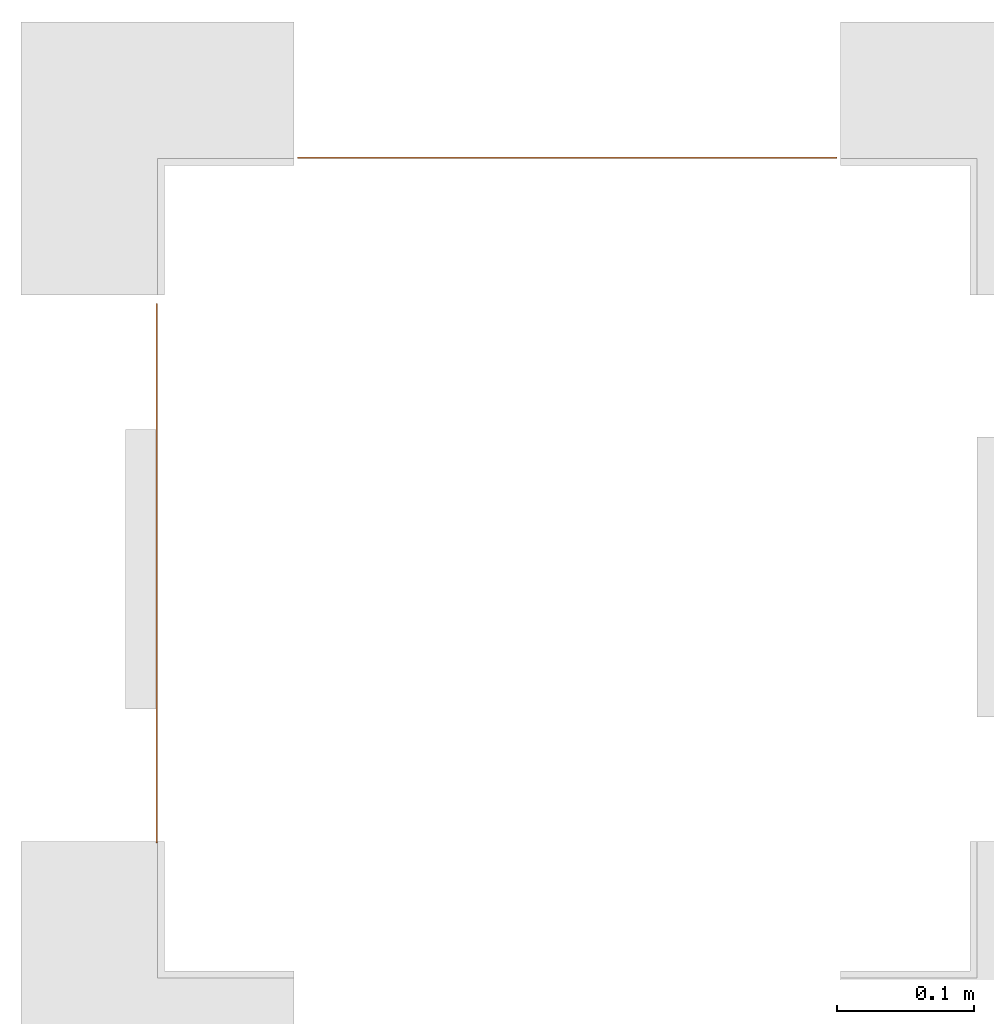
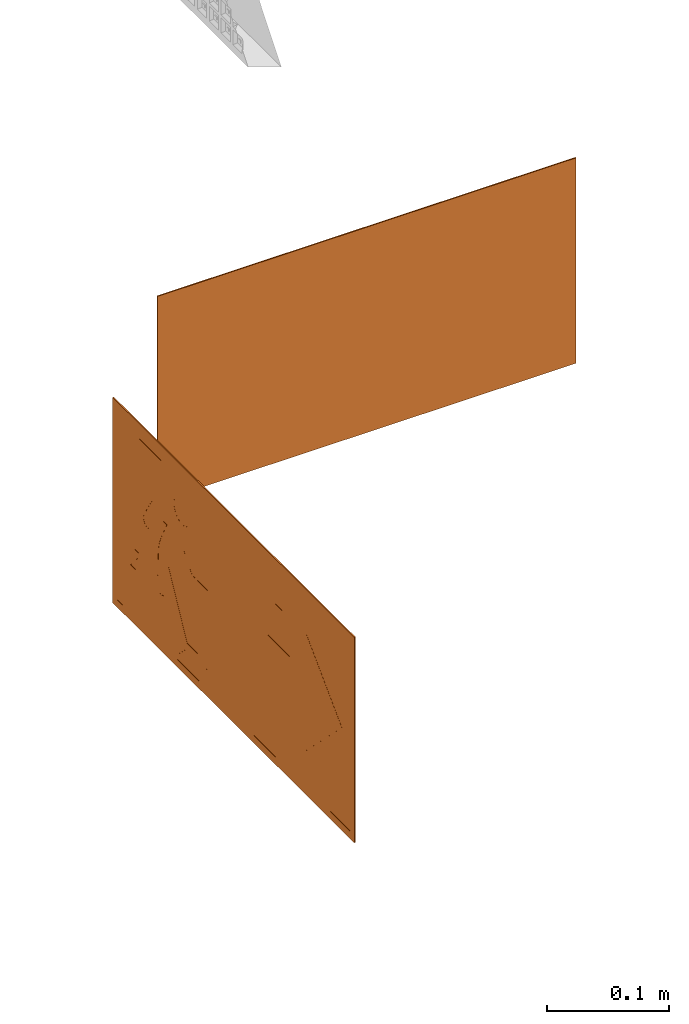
# One storey, part 101 of 119: 2 proxies.
"""IFC2X3 building model written with IfcOpenShell, lengths in metres."""

import ifcopenshell
import ifcopenshell.guid

model = None  # the IFC model being written
_history = None  # IfcOwnerHistory: only IFC2X3 demands one
_inside = {}  # id of a spatial element -> (the spatial element, [elements in it])
_under = {}  # id of a project, library or spatial element -> (it, [spatial elements below it])
_declared = {}  # id of a project -> (the project, [libraries it declares])
_typed = {}  # id of a type object -> (the type object, [elements of that type])
_made_of = {}  # id of a material, layer set ... -> (it, [elements and type objects made of it])


def new_model(schema):
    """Start an empty IFC model of exactly this schema.

    Asked for "IFC4X3", IfcOpenShell would pick the latest addendum, in which some entities
    have other attributes; the version numbers below select the first issue.
    IFC2X3 requires an IfcOwnerHistory on every rooted entity: one is made here for all.
    """
    global model, _history
    if schema == "IFC4X3":
        model = ifcopenshell.file(schema_version=(4, 3, 0, 0))
    else:
        model = ifcopenshell.file(schema=schema)
    _inside.clear()
    _under.clear()
    _declared.clear()
    _typed.clear()
    _made_of.clear()
    _history = None
    if model.schema == "IFC2X3":
        org = make("IfcOrganization", Name="unknown")
        user = make(
            "IfcPersonAndOrganization",
            ThePerson=make("IfcPerson", FamilyName="unknown"),
            TheOrganization=org,
        )
        app = make(
            "IfcApplication",
            ApplicationDeveloper=org,
            Version="unknown",
            ApplicationFullName="unknown",
            ApplicationIdentifier="unknown",
        )
        _history = make(
            "IfcOwnerHistory",
            OwningUser=user,
            OwningApplication=app,
            ChangeAction="ADDED",
            CreationDate=0,
        )
    return model


def make(cls, **values):
    """One entity of the class cls with the attributes given. An attribute that is None is left unset."""
    return model.create_entity(
        cls, **{name: value for name, value in values.items() if value is not None}
    )


def entity(cls, *values):
    """Any entity or typed value of the class cls, its attributes in the order of the schema. None: left unset."""
    e = model.create_entity(cls)
    for i, value in enumerate(values):
        if value is not None:
            e[i] = value
    return e


def rooted(cls, **values):
    """An entity with a GlobalId (a new one), such as an element, a storey or a relation."""
    return make(cls, GlobalId=ifcopenshell.guid.new(), OwnerHistory=_history, **values)


def si_unit(unit_type, name, prefix=None):
    """IfcSIUnit, for example si_unit("LENGTHUNIT", "METRE", prefix="MILLI")."""
    return make("IfcSIUnit", UnitType=unit_type, Prefix=prefix, Name=name)


def converted_unit(unit_type, name, factor, base, dimensions=None, offset=None):
    """IfcConversionBasedUnit, such as the inch: factor (a typed value) times the base unit."""
    return make(
        "IfcConversionBasedUnit"
        if offset is None
        else "IfcConversionBasedUnitWithOffset",
        ConversionOffset=offset,
        Dimensions=None
        if dimensions is None
        else entity("IfcDimensionalExponents", *dimensions),
        UnitType=unit_type,
        Name=name,
        ConversionFactor=make(
            "IfcMeasureWithUnit", ValueComponent=factor, UnitComponent=base
        ),
    )


def derived_unit(unit_type, elements):
    """IfcDerivedUnit: a product of units, each with its exponent."""
    return make(
        "IfcDerivedUnit",
        Elements=[
            make("IfcDerivedUnitElement", Unit=unit, Exponent=power)
            for unit, power in elements
        ],
        UnitType=unit_type,
    )


def assignment(units):
    """IfcUnitAssignment: the units of a project."""
    return None if units is None else make("IfcUnitAssignment", Units=units)


def point(xyz):
    """IfcCartesianPoint."""
    return None if xyz is None else make("IfcCartesianPoint", Coordinates=xyz)


def direction(xyz):
    """IfcDirection."""
    return None if xyz is None else make("IfcDirection", DirectionRatios=xyz)


def frame(location, z_axis=None, x_axis=None):
    """IfcAxis2Placement3D, a coordinate frame: its origin and axes. An axis left out is left unset."""
    return make(
        "IfcAxis2Placement3D",
        Location=point(location),
        Axis=direction(z_axis),
        RefDirection=direction(x_axis),
    )


def frame_2d(location, x_axis=None):
    """IfcAxis2Placement2D, a coordinate frame in the plane: its origin and x axis."""
    return make(
        "IfcAxis2Placement2D", Location=point(location), RefDirection=direction(x_axis)
    )


def origin():
    """The frame at (0, 0, 0) with its axes left unset."""
    return frame((0.0, 0.0, 0.0))


def origin_2d_with_axis():
    """The frame at (0, 0) in the plane with the x axis (1, 0) written out."""
    return frame_2d((0.0, 0.0), x_axis=(1.0, 0.0))


def place(relative_to, where):
    """IfcLocalPlacement: puts the frame where relative to a parent placement (None: the world)."""
    return make(
        "IfcLocalPlacement", PlacementRelTo=relative_to, RelativePlacement=where
    )


def context(
    kind, dimensions, precision=None, world=None, true_north=None, identifier=None
):
    """IfcGeometricRepresentationContext, for example the 3D "Model" context."""
    return make(
        "IfcGeometricRepresentationContext",
        ContextIdentifier=identifier,
        ContextType=kind,
        CoordinateSpaceDimension=dimensions,
        Precision=precision,
        WorldCoordinateSystem=world,
        TrueNorth=true_north,
    )


def subcontext(parent, identifier, kind, view, scale=None):
    """IfcGeometricRepresentationSubContext, for example "Body" below "Model"."""
    return make(
        "IfcGeometricRepresentationSubContext",
        ContextIdentifier=identifier,
        ContextType=kind,
        ParentContext=parent,
        TargetScale=scale,
        TargetView=view,
    )


def project(units=None, contexts=None):
    """IfcProject with its units and contexts."""
    return rooted(
        "IfcProject",
        Name="project",
        RepresentationContexts=contexts,
        UnitsInContext=assignment(units),
    )


def spatial(cls, under=None, at=None, **own):
    """A site, building, storey or space (cls), placed at a placement, below another one or the project."""
    s = rooted(cls, ObjectPlacement=at, **own)
    if under is not None:
        _under.setdefault(under.id(), (under, []))[1].append(s)
    return s


def polyline(points):
    """IfcPolyline through the points."""
    return make("IfcPolyline", Points=[point(p) for p in points])


def circle_curve(where, radius):
    """IfcCircle in the frame where."""
    return make("IfcCircle", Position=where, Radius=radius)


def parameter(value):
    """IfcParameterValue: where a trimmed curve begins or ends, as a parameter of its basis curve."""
    return model.create_entity("IfcParameterValue", value)


def trimmed(basis, trim1, trim2, sense, master):
    """IfcTrimmedCurve: the piece of a basis curve between two trims."""
    return make(
        "IfcTrimmedCurve",
        BasisCurve=basis,
        Trim1=trim1,
        Trim2=trim2,
        SenseAgreement=sense,
        MasterRepresentation=master,
    )


def segment(curve, same_sense, transition):
    """IfcCompositeCurveSegment."""
    return make(
        "IfcCompositeCurveSegment",
        Transition=transition,
        SameSense=same_sense,
        ParentCurve=curve,
    )


def composite_curve(segments, self_intersect=None):
    """IfcCompositeCurve: segments joined end to end."""
    return make("IfcCompositeCurve", Segments=segments, SelfIntersect=self_intersect)


def profile(cls, at=None, kind="AREA", **sizes):
    """A parametric profile (cls). Its sizes go by their IFC names, for example OverallWidth=200.0."""
    return make(cls, ProfileType=kind, Position=at, **sizes)


def rectangle(**sizes):
    """IfcRectangleProfileDef."""
    return profile("IfcRectangleProfileDef", **sizes)


def outline(outer, holes=None, kind="AREA"):
    """IfcArbitraryClosedProfileDef: a profile drawn as a closed curve; with holes, ...WithVoids."""
    if holes is None:
        return make("IfcArbitraryClosedProfileDef", ProfileType=kind, OuterCurve=outer)
    return make(
        "IfcArbitraryProfileDefWithVoids",
        ProfileType=kind,
        OuterCurve=outer,
        InnerCurves=holes,
    )


def extrude(swept, where, along, depth):
    """IfcExtrudedAreaSolid: the profile swept, set in the frame where, extruded along a direction by depth."""
    return make(
        "IfcExtrudedAreaSolid",
        SweptArea=swept,
        Position=where,
        ExtrudedDirection=direction(along),
        Depth=depth,
    )


def shape(context_of_items, identifier, shape_type, items):
    """IfcShapeRepresentation: the items that make up one representation, for example the "Body"."""
    return make(
        "IfcShapeRepresentation",
        ContextOfItems=context_of_items,
        RepresentationIdentifier=identifier,
        RepresentationType=shape_type,
        Items=items,
    )


def source(mapping_origin, context_of_items, identifier, shape_type, items):
    """IfcRepresentationMap: a shape defined once, which mapped items show again and again."""
    return make(
        "IfcRepresentationMap",
        MappingOrigin=mapping_origin,
        MappedRepresentation=shape(context_of_items, identifier, shape_type, items),
    )


def transform(
    local_origin,
    x_axis=None,
    y_axis=None,
    z_axis=None,
    scale=None,
    scale2=None,
    scale3=None,
    uniform=True,
):
    """IfcCartesianTransformationOperator3D, or its non-uniform kind. x_axis, y_axis, z_axis: its Axis1, 2, 3."""
    if uniform:
        return make(
            "IfcCartesianTransformationOperator3D",
            Axis1=direction(x_axis),
            Axis2=direction(y_axis),
            LocalOrigin=point(local_origin),
            Scale=scale,
            Axis3=direction(z_axis),
        )
    return make(
        "IfcCartesianTransformationOperator3DnonUniform",
        Axis1=direction(x_axis),
        Axis2=direction(y_axis),
        LocalOrigin=point(local_origin),
        Scale=scale,
        Axis3=direction(z_axis),
        Scale2=scale2,
        Scale3=scale3,
    )


def mapped(mapping_source, mapping_target):
    """IfcMappedItem: shows the shape of a source again, moved by a transform."""
    return make(
        "IfcMappedItem", MappingSource=mapping_source, MappingTarget=mapping_target
    )


def material(Name=None, Category=None):
    """IfcMaterial."""
    return make("IfcMaterial", Name=Name, Category=Category)


def material_list(materials):
    """IfcMaterialList."""
    return make("IfcMaterialList", Materials=materials)


def made_of(thing, what):
    """Note that an element or type object is made of a material, layer set ...; save() writes the relation."""
    if what is not None:
        _made_of.setdefault(what.id(), (what, []))[1].append(thing)
    return thing


def type_object(cls, material=None, **own):
    """A type object (cls), such as IfcWallType, which elements share."""
    return made_of(rooted(cls, **own), material)


def type_shapes(of_type, sources):
    """Give a type object the sources (RepresentationMaps) that its elements show as mapped items."""
    of_type.RepresentationMaps = sources


def element(
    cls,
    number,
    at=None,
    inside=None,
    cuts=None,
    type_object=None,
    material=None,
    context=None,
    identifier="Body",
    shape_type=None,
    held_by="IfcProductDefinitionShape",
    body=None,
    shapes=None,
    **own,
):
    """One element of the class cls, such as IfcWall. Its Tag is "e" and its number.

    at: its placement. inside: the storey or other place that contains it. cuts: it is an
    opening in that element (IfcRelVoidsElement). A single representation is given by context,
    identifier, shape_type and body (its items); several are given by shapes. held_by: the class
    of the entity that holds the representations. save() writes the other relations.
    """
    e = rooted(cls, Tag="e%d" % number, ObjectPlacement=at, **own)
    if body is not None:
        shapes = [shape(context, identifier, shape_type, body)]
    if shapes is not None:
        e.Representation = make(held_by, Representations=shapes)
    if inside is not None:
        _inside.setdefault(inside.id(), (inside, []))[1].append(e)
    if cuts is not None:
        rooted(
            "IfcRelVoidsElement", RelatingBuildingElement=cuts, RelatedOpeningElement=e
        )
    if type_object is not None:
        _typed.setdefault(type_object.id(), (type_object, []))[1].append(e)
    return made_of(e, material)


def aggregate(whole, parts):
    """IfcRelAggregates: a whole, such as a stair, and the parts it consists of."""
    return rooted("IfcRelAggregates", RelatingObject=whole, RelatedObjects=parts)


def save(model, path):
    """Write the relations noted so far, then the file.

    IfcRelAggregates (storeys below a building ...), IfcRelContainedInSpatialStructure (elements
    in a storey), IfcRelDefinesByType, IfcRelAssociatesMaterial and IfcRelDeclares: one each for
    every whole, place, type object, material and project.
    """
    for whole, parts in _under.values():
        aggregate(whole, parts)
    for where, things in _inside.values():
        rooted(
            "IfcRelContainedInSpatialStructure",
            RelatedElements=things,
            RelatingStructure=where,
        )
    for kind, things in _typed.values():
        rooted("IfcRelDefinesByType", RelatedObjects=things, RelatingType=kind)
    for what, things in _made_of.values():
        rooted("IfcRelAssociatesMaterial", RelatedObjects=things, RelatingMaterial=what)
    for by, libraries in _declared.values():
        rooted("IfcRelDeclares", RelatingContext=by, RelatedDefinitions=libraries)
    model.write(path)


model = new_model("IFC2X3")

# Units and contexts
model_context = context("Model", 3, precision=1e-05, world=origin(), true_north=direction((6.12303176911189e-17, 1.0)))
body_context = subcontext(model_context, "Body", "Model", "MODEL_VIEW")
ifc_project = project(units=[si_unit("LENGTHUNIT", "METRE"), si_unit("AREAUNIT", "SQUARE_METRE"), si_unit("VOLUMEUNIT", "CUBIC_METRE"), converted_unit("PLANEANGLEUNIT", "DEGREE", entity("IfcRatioMeasure", 0.0174532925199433), si_unit("PLANEANGLEUNIT", "RADIAN"), dimensions=[0, 0, 0, 0, 0, 0, 0]), si_unit("MASSUNIT", "GRAM", prefix="KILO"), derived_unit("MASSDENSITYUNIT", [(si_unit("MASSUNIT", "GRAM", prefix="KILO"), 1), (si_unit("LENGTHUNIT", "METRE"), -3)]), derived_unit("MOMENTOFINERTIAUNIT", [(si_unit("LENGTHUNIT", "METRE"), 4)]), si_unit("TIMEUNIT", "SECOND"), si_unit("FREQUENCYUNIT", "HERTZ"), si_unit("THERMODYNAMICTEMPERATUREUNIT", "DEGREE_CELSIUS"), derived_unit("THERMALTRANSMITTANCEUNIT", [(si_unit("MASSUNIT", "GRAM", prefix="KILO"), 1), (si_unit("THERMODYNAMICTEMPERATUREUNIT", "KELVIN"), -1), (si_unit("TIMEUNIT", "SECOND"), -3)]), derived_unit("VOLUMETRICFLOWRATEUNIT", [(si_unit("LENGTHUNIT", "METRE"), 3), (si_unit("TIMEUNIT", "SECOND"), -1)]), si_unit("ELECTRICCURRENTUNIT", "AMPERE"), si_unit("ELECTRICVOLTAGEUNIT", "VOLT"), si_unit("POWERUNIT", "WATT"), si_unit("FORCEUNIT", "NEWTON", prefix="KILO"), si_unit("ILLUMINANCEUNIT", "LUX"), si_unit("LUMINOUSFLUXUNIT", "LUMEN"), si_unit("LUMINOUSINTENSITYUNIT", "CANDELA"), derived_unit("USERDEFINED", [(si_unit("MASSUNIT", "GRAM", prefix="KILO"), -1), (si_unit("LENGTHUNIT", "METRE"), -2), (si_unit("TIMEUNIT", "SECOND"), 3), (si_unit("LUMINOUSFLUXUNIT", "LUMEN"), 1)]), derived_unit("LINEARVELOCITYUNIT", [(si_unit("LENGTHUNIT", "METRE"), 1), (si_unit("TIMEUNIT", "SECOND"), -1)]), si_unit("PRESSUREUNIT", "PASCAL"), derived_unit("USERDEFINED", [(si_unit("LENGTHUNIT", "METRE"), -2), (si_unit("MASSUNIT", "GRAM", prefix="KILO"), 1), (si_unit("TIMEUNIT", "SECOND"), -2)]), derived_unit("LINEARFORCEUNIT", [(si_unit("MASSUNIT", "GRAM", prefix="KILO"), 1), (si_unit("LENGTHUNIT", "METRE"), 1), (si_unit("TIMEUNIT", "SECOND"), -2), (si_unit("LENGTHUNIT", "METRE"), -1)]), derived_unit("PLANARFORCEUNIT", [(si_unit("MASSUNIT", "GRAM", prefix="KILO"), 1), (si_unit("LENGTHUNIT", "METRE"), 1), (si_unit("TIMEUNIT", "SECOND"), -2), (si_unit("LENGTHUNIT", "METRE"), -2)])], contexts=[model_context])

# Site, building, storey
site_placement = place(None, origin())
site = spatial("IfcSite", under=ifc_project, at=site_placement, Name="Default", CompositionType="ELEMENT")
building_placement = place(site_placement, origin())
building = spatial("IfcBuilding", under=site, at=building_placement, CompositionType="ELEMENT")
storey_placement = place(building_placement, origin())
storey = spatial("IfcBuildingStorey", under=building, at=storey_placement, Name="PAV. 01 - TÉRREO", CompositionType="ELEMENT", Elevation=0.0)

# Proxies
ifc_material_1 = material(Name="Plastico branco")
ifc_material_2 = material(Name="Plastico Verde")
ifc_material_list_1 = material_list([ifc_material_1, ifc_material_2])
building_element_proxy_type_1 = type_object("IfcBuildingElementProxyType", Name="Sinalização de orientação - S01 - Indicação do sentido da saída de emergência direita:Distância 12m", PredefinedType="NOTDEFINED", material=ifc_material_1)
shared_shape_1 = source(origin(), body_context, "Body", "SweptSolid", [
    extrude(outline(polyline([(0.0124622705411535, 0.0340163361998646), (0.0116069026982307, 0.0335634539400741), (0.0110082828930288, 0.0323153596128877), (0.0106205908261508, 0.0304379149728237), (0.0103980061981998, 0.0280969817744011), (0.0102947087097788, 0.0254584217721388), (0.0102359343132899, 0.0148408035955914), (0.0100952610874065, 0.0101688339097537), (0.00995272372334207, 0.00797089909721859), (0.00974625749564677, 0.00585117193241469), (0.00946401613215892, 0.00379928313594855), (0.00909414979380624, 0.0018048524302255), (0.00861827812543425, -0.000162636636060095), (0.00799797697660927, -0.00219550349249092), (0.00719098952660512, -0.00439788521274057), (0.00615505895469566, -0.0068739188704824), (0.00484792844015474, -0.00972774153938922), (0.00322734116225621, -0.0130634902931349), (-0.00393772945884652, -0.0270036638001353), (0.00911414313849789, -0.0269659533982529), (0.00975353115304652, -0.0269418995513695), (0.0101589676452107, -0.0269097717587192), (0.0104072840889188, -0.0268684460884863), (0.0105753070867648, -0.026816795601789), (0.0107283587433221, -0.0267465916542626), (0.0108956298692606, -0.0266273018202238), (0.0110992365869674, -0.0264240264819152), (0.0113612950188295, -0.02610186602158), (0.0117039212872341, -0.02562592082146), (0.0121492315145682, -0.0249612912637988), (0.0134363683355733, -0.022926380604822), (0.0220622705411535, -0.00866366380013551), (0.0231418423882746, -0.00739752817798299), (0.024244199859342, -0.00641124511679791), (0.0253551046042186, -0.00568750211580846), (0.026460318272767, -0.0052089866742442), (0.0275456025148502, -0.00495838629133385), (0.0285967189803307, -0.00491838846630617), (0.0295994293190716, -0.00507168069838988), (0.0305394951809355, -0.00540095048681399), (0.0314026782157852, -0.00588888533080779), (0.0321747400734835, -0.00651817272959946), (0.0328414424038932, -0.0072715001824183), (0.033388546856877, -0.00813155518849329), (0.0338018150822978, -0.00908102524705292), (0.0340670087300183, -0.0101025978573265), (0.0341698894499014, -0.0111789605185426), (0.0340962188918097, -0.0122928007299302), (0.0338317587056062, -0.0134268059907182), (0.0333622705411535, -0.0145636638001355), (0.027258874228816, -0.0250738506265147), (0.0231922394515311, -0.0317577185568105), (0.020455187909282, -0.0355759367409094), (0.0183405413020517, -0.0374891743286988), (0.0161486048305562, -0.0384492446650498), (0.0134863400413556, -0.0390450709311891), (0.0103684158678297, -0.0393831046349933), (0.00683771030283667, -0.0395364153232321), (-0.0223273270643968, -0.0395794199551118), (-0.0254276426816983, -0.0395207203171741), (-0.0281392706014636, -0.0392326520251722), (-0.0306250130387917, -0.0385308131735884), (-0.0330476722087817, -0.0372308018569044), (-0.0355700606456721, -0.0351482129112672), (-0.0383972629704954, -0.0320852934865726), (-0.0418729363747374, -0.0278005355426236), (-0.0522577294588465, -0.0145636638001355), (-0.0701177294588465, -0.0145636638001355), (-0.0701177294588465, -0.0855036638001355), (0.0426422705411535, -0.0855036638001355), (0.0426422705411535, 0.0290963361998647), (0.0481022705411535, 0.0290963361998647), (0.0680622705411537, 0.0537563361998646), (0.0426422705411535, 0.0537563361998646), (0.0426422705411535, 0.0764363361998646), (0.0551222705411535, 0.0891363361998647), (-0.0240977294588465, 0.0891363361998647), (-0.0371577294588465, 0.0764363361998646), (-0.0542977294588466, 0.0764363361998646), (-0.039344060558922, 0.0891363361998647), (-0.0579777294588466, 0.0891363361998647), (-0.0701177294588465, 0.0764363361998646), (-0.0701177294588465, -0.00182366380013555), (-0.0500921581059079, -0.00182052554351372), (-0.048376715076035, -0.00187323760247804), (-0.0469973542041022, -0.00203451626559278), (-0.0458400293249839, -0.00235707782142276), (-0.0447906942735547, -0.00289363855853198), (-0.0437353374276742, -0.0036968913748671), (-0.0425823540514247, -0.00480435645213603), (-0.0413011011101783, -0.00621227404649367), (-0.0398712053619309, -0.00790993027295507), (-0.0322577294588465, -0.0173836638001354), (-0.0217377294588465, 0.00417633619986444), (-0.0542977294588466, 0.0709363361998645), (-0.0371577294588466, 0.0709363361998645), (-0.00639772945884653, 0.0127763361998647), (-0.00393772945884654, 0.0340163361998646), (-0.00373167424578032, 0.0366224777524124), (-0.00346846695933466, 0.0389264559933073), (-0.00310194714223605, 0.0409426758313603), (-0.00258595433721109, 0.0426855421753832), (-0.00187432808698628, 0.0441694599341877), (-0.000920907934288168, 0.0454088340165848), (0.000320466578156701, 0.0464180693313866), (0.00189595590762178, 0.0472115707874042), (0.00385172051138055, 0.0478037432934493), (0.00623392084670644, 0.0482089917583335), (0.00908871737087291, 0.0484417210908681), (0.0124622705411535, 0.0485163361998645), (0.0551222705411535, 0.0485163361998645), (0.0426422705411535, 0.0340163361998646), (0.0124622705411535, 0.0340163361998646)]), holes=[composite_curve([segment(trimmed(circle_curve(frame_2d((-0.0288977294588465, -0.0559436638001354), x_axis=(-1.0, 0.0)), 0.0134), [parameter(180.0)], [parameter(360.0)], True, "PARAMETER"), False, "CONTINUOUS"), segment(trimmed(circle_curve(frame_2d((-0.0288977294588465, -0.0559436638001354), x_axis=(-1.0, 0.0)), 0.0134), [parameter(2.03555499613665e-13)], [parameter(180.0)], True, "PARAMETER"), False, "CONTINUOUS")], self_intersect=False)]), frame((-0.112957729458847, -0.00110000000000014, 1.90431633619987), z_axis=(0.0, -1.0, 0.0), x_axis=(-1.0, 0.0, 0.0)), (0.0, 0.0, -1.0), 0.0011),
    extrude(outline(polyline([(-0.102500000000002, -0.197500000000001), (0.102500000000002, -0.197500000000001), (0.102500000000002, 0.197500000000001), (-0.102500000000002, 0.197500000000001), (-0.102500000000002, -0.197500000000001)]), holes=[polyline([(-0.0950000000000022, -0.190000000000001), (-0.0950000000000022, 0.189999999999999), (0.0949999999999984, 0.189999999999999), (0.0949999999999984, -0.190000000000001), (-0.0950000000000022, -0.190000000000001)])]), frame((0.0, -0.0011, 1.9025), z_axis=(0.0, 1.0, 0.0), x_axis=(0.0, 0.0, -1.0)), (0.0, 0.0, 1.0), 0.0011),
    extrude(rectangle(XDim=0.001, YDim=0.38, at=origin_2d_with_axis()), frame((0.0, -0.0005, 1.8075), z_axis=(0.0, 0.0, 1.0), x_axis=(0.0, 1.0, 0.0)), (0.0, 0.0, 1.0), 0.190000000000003),
    extrude(outline(polyline([(-0.0165808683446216, -0.0648778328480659), (0.0648778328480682, -0.0648778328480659), (0.0648778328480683, 0.016580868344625), (0.0289709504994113, 0.0524877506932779), (0.0289709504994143, -0.00190290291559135), (-0.0467319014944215, 0.073799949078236), (-0.0737999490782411, 0.0467319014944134), (0.00190290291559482, -0.0289709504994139), (-0.0524877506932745, -0.028970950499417), (-0.0165808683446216, -0.0648778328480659)])), frame((0.0852288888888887, -0.0011, 1.9025), z_axis=(0.0, 1.0, 0.0), x_axis=(0.707106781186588, 0.0, -0.707106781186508)), (0.0, 0.0, 1.0), 0.0011),
])
type_shapes(building_element_proxy_type_1, [shared_shape_1])
proxy_1_placement = place(storey_placement, frame((80.8737817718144, 22.9250290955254, 0.0), z_axis=(0.0, 0.0, 1.0), x_axis=(0.0, -1.0, 0.0)))
element("IfcBuildingElementProxy", 1, at=proxy_1_placement, inside=storey, type_object=building_element_proxy_type_1, material=ifc_material_list_1, Name="Sinalização de orientação - S01 - Indicação do sentido da saída de emergência direita:Distância 12m", ObjectType="Sinalização de orientação - S01 - Indicação do sentido da saída de emergência direita:Distância 12m", context=body_context, shape_type="MappedRepresentation", body=[
    mapped(shared_shape_1, transform((0.0, 0.0, 0.0), scale=1.0)),
])
ifc_material_list_2 = material_list([ifc_material_1, ifc_material_2])
building_element_proxy_type_2 = type_object("IfcBuildingElementProxyType", Name="Sinalização de orientação - S02 - Indicação do sentido da saída de emergência esquerda:Distância 12m", PredefinedType="NOTDEFINED", material=ifc_material_1)
shared_shape_2 = source(origin(), body_context, "Body", "SweptSolid", [
    extrude(outline(polyline([(-0.0269307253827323, -0.024231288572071), (-0.0259628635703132, -0.024231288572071), (-0.0248498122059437, -0.0234083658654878), (-0.0236286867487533, -0.0219305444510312), (-0.0223366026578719, -0.0199658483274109), (-0.0210106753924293, -0.0176823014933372), (-0.0159905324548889, -0.00832626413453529), (-0.0136800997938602, -0.00426313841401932), (-0.0125256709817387, -0.00238736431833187), (-0.0113513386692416, -0.000610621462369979), (-0.0101417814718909, 0.0010707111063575), (-0.00888166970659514, 0.00266026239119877), (-0.00754048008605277, 0.00417640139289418), (-0.00604105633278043, 0.00568273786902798), (-0.00429732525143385, 0.00725153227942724), (-0.00222321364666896, 0.00895504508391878), (0.000267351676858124, 0.010865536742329), (0.0161156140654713, 0.0220225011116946), (0.00541084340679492, 0.027666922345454), (0.004563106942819, 0.0280964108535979), (0.00398677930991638, 0.0283743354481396), (0.00361343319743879, 0.0285356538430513), (0.00337464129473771, 0.0286153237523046), (0.0032019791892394, 0.0286482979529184), (0.00303386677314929, 0.0286578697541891), (0.00283021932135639, 0.0286307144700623), (0.00255516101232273, 0.02854633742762), (0.00217281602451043, 0.0283842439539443), (0.00164730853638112, 0.0281239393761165), (0.000942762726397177, 0.0277449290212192), (-0.0154440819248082, 0.0179800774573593), (-0.0169906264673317, 0.0173662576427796), (-0.0184263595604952, 0.0170104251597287), (-0.0197467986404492, 0.0168906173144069), (-0.0209474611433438, 0.0169848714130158), (-0.0220238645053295, 0.017271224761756), (-0.0229715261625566, 0.0177277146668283), (-0.0237859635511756, 0.0183323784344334), (-0.0244626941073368, 0.0190632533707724), (-0.0249972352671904, 0.0198983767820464), (-0.025385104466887, 0.0208157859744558), (-0.0256218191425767, 0.0217935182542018), (-0.02570289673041, 0.0228096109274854), (-0.0256238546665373, 0.023842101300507), (-0.0253802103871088, 0.024869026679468), (-0.024967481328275, 0.0258684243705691), (-0.0243811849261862, 0.026818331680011), (-0.0236168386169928, 0.0276967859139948), (-0.022669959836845, 0.0284818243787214), (-0.012358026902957, 0.0349145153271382), (-0.0056365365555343, 0.0389186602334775), (-0.00143098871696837, 0.0410123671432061), (0.00133311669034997, 0.0417137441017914), (0.00371952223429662, 0.0415365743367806), (0.00635115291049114, 0.0408174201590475), (0.00926485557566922, 0.0396572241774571), (0.0124569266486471, 0.0381406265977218), (0.0382522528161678, 0.0245317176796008), (0.0409647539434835, 0.0230291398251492), (0.0432264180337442, 0.021505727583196), (0.0450948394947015, 0.0197223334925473), (0.0466276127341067, 0.0174398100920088), (0.0478823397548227, 0.0144190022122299), (0.0489477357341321, 0.0103891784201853), (0.0500145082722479, 0.00497609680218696), (0.0529984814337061, -0.0115815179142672), (0.0687826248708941, -0.0199385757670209), (0.101976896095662, 0.0427561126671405), (0.00232291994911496, 0.0955188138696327), (-0.0513007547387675, -0.00576130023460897), (-0.0561261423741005, -0.00320645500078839), (-0.0853051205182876, -0.0156605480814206), (-0.0628396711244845, -0.0275550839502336), (-0.0734521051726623, -0.0475990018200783), (-0.0904241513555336, -0.0529832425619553), (-0.0204118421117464, -0.0900518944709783), (-0.00292720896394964, -0.0849390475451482), (0.0122206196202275, -0.0929592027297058), (-0.00693758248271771, -0.0971859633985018), (0.00953030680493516, -0.105905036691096), (0.0262018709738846, -0.100361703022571), (0.0628213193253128, -0.0311978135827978), (0.0451218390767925, -0.0218302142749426), (0.0436304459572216, -0.0209809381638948), (0.0424868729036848, -0.020192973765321), (0.041614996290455, -0.0193663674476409), (0.0409386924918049, -0.0184011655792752), (0.0403818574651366, -0.0171974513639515), (0.0398810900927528, -0.0156792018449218), (0.0394075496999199, -0.0138354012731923), (0.0389382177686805, -0.0116659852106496), (0.0366426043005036, 0.000269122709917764), (0.0172569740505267, -0.0138624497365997), (0.0147941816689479, -0.0880984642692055), (-0.000353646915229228, -0.0800783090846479), (-0.000324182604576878, -0.0142849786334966), (-0.0124368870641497, -0.0319051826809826), (-0.0138384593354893, -0.0341119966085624), (-0.0151491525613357, -0.0360250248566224), (-0.0164165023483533, -0.0376353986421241), (-0.0176880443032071, -0.0389342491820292), (-0.0190113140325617, -0.0399127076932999), (-0.0204338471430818, -0.0405619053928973), (-0.0220031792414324, -0.0408729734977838), (-0.0237668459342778, -0.0408370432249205), (-0.025772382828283, -0.0404452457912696), (-0.0280673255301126, -0.0396887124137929), (-0.0306992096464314, -0.0385585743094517), (-0.0337155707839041, -0.0370459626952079), (-0.0714172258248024, -0.0170844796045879), (-0.0536029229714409, -0.0101094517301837), (-0.0269307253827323, -0.024231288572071)]), holes=[composite_curve([segment(trimmed(circle_curve(frame_2d((0.0517161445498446, 0.0359195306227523), x_axis=(0.883770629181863, -0.46792037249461)), 0.0134), [parameter(180.0)], [parameter(360.0)], True, "PARAMETER"), False, "CONTINUOUS"), segment(trimmed(circle_curve(frame_2d((0.0517161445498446, 0.0359195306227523), x_axis=(0.883770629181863, -0.46792037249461)), 0.0134), [parameter(2.03555499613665e-13)], [parameter(180.0)], True, "PARAMETER"), False, "CONTINUOUS")], self_intersect=False)]), frame((0.112957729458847, -0.00110000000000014, 1.90431633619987), z_axis=(0.0, 1.0, 0.0), x_axis=(-0.883770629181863, 0.0, 0.46792037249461)), (0.0, 0.0, 1.0), 0.0011),
    extrude(outline(polyline([(-0.197500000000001, -0.102500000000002), (0.197500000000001, -0.102500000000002), (0.197500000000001, 0.102500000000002), (-0.197500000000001, 0.102500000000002), (-0.197500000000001, -0.102500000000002)]), holes=[polyline([(-0.190000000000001, -0.0950000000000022), (-0.190000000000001, 0.0949999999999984), (0.189999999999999, 0.0949999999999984), (0.189999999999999, -0.0950000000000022), (-0.190000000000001, -0.0950000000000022)])]), frame((0.0, -0.0011, 1.9025), z_axis=(0.0, 1.0, 0.0), x_axis=(1.0, 0.0, 0.0)), (0.0, 0.0, 1.0), 0.0011),
    extrude(rectangle(XDim=0.38, YDim=0.001, at=origin_2d_with_axis()), frame((0.0, -0.0005, 1.8075)), (0.0, 0.0, 1.0), 0.190000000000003),
    extrude(outline(polyline([(-0.0341511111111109, -0.0575999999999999), (0.016628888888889, -0.0575999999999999), (-0.0218311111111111, -0.0191399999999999), (0.0852288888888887, -0.0191399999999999), (0.0852288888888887, 0.0191400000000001), (-0.0218311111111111, 0.0191400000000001), (0.016628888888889, 0.0576000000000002), (-0.0341511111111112, 0.0576000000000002), (-0.0917511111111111, 0.0), (-0.0341511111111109, -0.0575999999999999)])), frame((-0.0852288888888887, -0.0011, 1.9025), z_axis=(0.0, 1.0, 0.0), x_axis=(1.0, 0.0, 0.0)), (0.0, 0.0, 1.0), 0.0011),
])
type_shapes(building_element_proxy_type_2, [shared_shape_2])
proxy_2_placement = place(storey_placement, frame((81.173781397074, 23.2286556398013, 0.0), z_axis=(0.0, 0.0, 1.0), x_axis=(-1.0, 0.0, 0.0)))
element("IfcBuildingElementProxy", 2, at=proxy_2_placement, inside=storey, type_object=building_element_proxy_type_2, material=ifc_material_list_2, Name="Sinalização de orientação - S02 - Indicação do sentido da saída de emergência esquerda:Distância 12m", ObjectType="Sinalização de orientação - S02 - Indicação do sentido da saída de emergência esquerda:Distância 12m", context=body_context, shape_type="MappedRepresentation", body=[
    mapped(shared_shape_2, transform((0.0, 0.0, 0.0), scale=1.0)),
])

save(model, "model.ifc")
